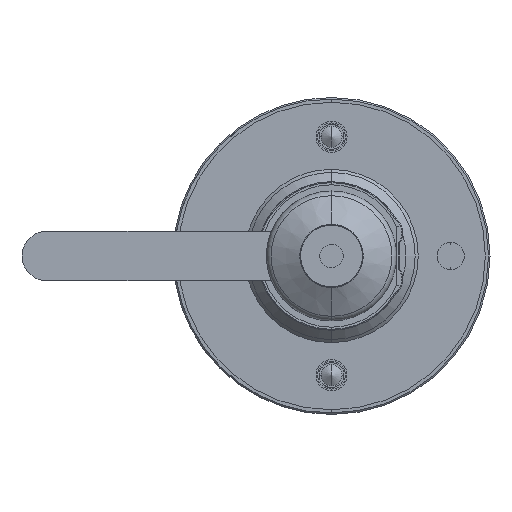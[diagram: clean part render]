
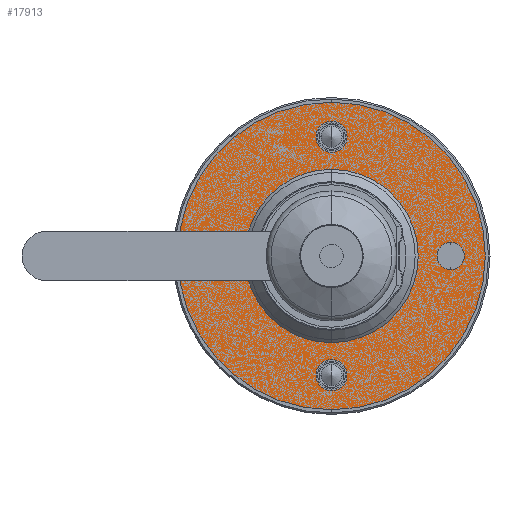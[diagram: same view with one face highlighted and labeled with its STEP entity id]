
A CAD part, front view. The second image highlights one B-rep face of the part: STEP entity #17913.
In plain terms, the highlighted planar face has unit normal (0, -1, 0) as drawn and (0, 0, -1) by its records, which use the part's own axes.
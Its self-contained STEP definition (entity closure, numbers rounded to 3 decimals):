
#97 = VERTEX_POINT ( 'NONE', #20005 ) ;
#420 = CARTESIAN_POINT ( 'NONE',  ( 0., -38.5, 0. ) ) ;
#700 = VERTEX_POINT ( 'NONE', #23377 ) ;
#1423 = FACE_OUTER_BOUND ( 'NONE', #10048, .T. ) ;
#1801 = DIRECTION ( 'NONE',  ( 0., 0., 1. ) ) ;
#2234 = AXIS2_PLACEMENT_3D ( 'NONE', #23058, #12537, #27835 ) ;
#2856 = CIRCLE ( 'NONE', #7424, 5. ) ;
#2959 = DIRECTION ( 'NONE',  ( -1., 0., 0. ) ) ;
#3120 = EDGE_LOOP ( 'NONE', ( #12084, #16001 ) ) ;
#3706 = DIRECTION ( 'NONE',  ( 0., 0., 1. ) ) ;
#4005 = FACE_BOUND ( 'NONE', #8280, .T. ) ;
#4648 = CARTESIAN_POINT ( 'NONE',  ( -22., 0., 0. ) ) ;
#4825 = DIRECTION ( 'NONE',  ( -1., 0., 0. ) ) ;
#4977 = ORIENTED_EDGE ( 'NONE', *, *, #26043, .T. ) ;
#5452 = CARTESIAN_POINT ( 'NONE',  ( 4.4, 38.5, 0. ) ) ;
#5481 = DIRECTION ( 'NONE',  ( 1., 0., 0. ) ) ;
#5783 = AXIS2_PLACEMENT_3D ( 'NONE', #16395, #16534, #11917 ) ;
#5867 = DIRECTION ( 'NONE',  ( -1., 0., 0. ) ) ;
#6807 = CARTESIAN_POINT ( 'NONE',  ( 0., 38.5, 0. ) ) ;
#7220 = VERTEX_POINT ( 'NONE', #11809 ) ;
#7252 = AXIS2_PLACEMENT_3D ( 'NONE', #17927, #24718, #26892 ) ;
#7316 = DIRECTION ( 'NONE',  ( -1., 0., 0. ) ) ;
#7424 = AXIS2_PLACEMENT_3D ( 'NONE', #17420, #21754, #21891 ) ;
#7699 = AXIS2_PLACEMENT_3D ( 'NONE', #20251, #15791, #4825 ) ;
#7714 = CIRCLE ( 'NONE', #8178, 4.4 ) ;
#7903 = CARTESIAN_POINT ( 'NONE',  ( -4.4, 38.5, 0. ) ) ;
#7959 = EDGE_CURVE ( 'NONE', #16624, #700, #19591, .T. ) ;
#7975 = DIRECTION ( 'NONE',  ( 0., 0., 1. ) ) ;
#8038 = FACE_BOUND ( 'NONE', #12215, .T. ) ;
#8178 = AXIS2_PLACEMENT_3D ( 'NONE', #6807, #1801, #21533 ) ;
#8280 = EDGE_LOOP ( 'NONE', ( #28122, #9424 ) ) ;
#8398 = VERTEX_POINT ( 'NONE', #8442 ) ;
#8442 = CARTESIAN_POINT ( 'NONE',  ( -49.675, 0., 0. ) ) ;
#8653 = VERTEX_POINT ( 'NONE', #18499 ) ;
#8832 = DIRECTION ( 'NONE',  ( -1., 0., 0. ) ) ;
#9024 = AXIS2_PLACEMENT_3D ( 'NONE', #27367, #3706, #12200 ) ;
#9063 = DIRECTION ( 'NONE',  ( 0., 0., 1. ) ) ;
#9424 = ORIENTED_EDGE ( 'NONE', *, *, #23356, .T. ) ;
#9855 = CARTESIAN_POINT ( 'NONE',  ( 38.5, 0., 0. ) ) ;
#9934 = AXIS2_PLACEMENT_3D ( 'NONE', #20675, #13755, #2959 ) ;
#9954 = EDGE_CURVE ( 'NONE', #7220, #21771, #2856, .T. ) ;
#10048 = EDGE_LOOP ( 'NONE', ( #21723, #4977 ) ) ;
#10216 = FACE_BOUND ( 'NONE', #16101, .T. ) ;
#10472 = ORIENTED_EDGE ( 'NONE', *, *, #27449, .T. ) ;
#10698 = AXIS2_PLACEMENT_3D ( 'NONE', #25535, #20628, #5481 ) ;
#11723 = AXIS2_PLACEMENT_3D ( 'NONE', #21307, #25653, #5867 ) ;
#11809 = CARTESIAN_POINT ( 'NONE',  ( 43.5, 0., 0. ) ) ;
#11917 = DIRECTION ( 'NONE',  ( -1., 0., 0. ) ) ;
#12084 = ORIENTED_EDGE ( 'NONE', *, *, #26165, .T. ) ;
#12168 = CIRCLE ( 'NONE', #9934, 4.4 ) ;
#12200 = DIRECTION ( 'NONE',  ( -1., 0., 0. ) ) ;
#12213 = CIRCLE ( 'NONE', #16358, 4.4 ) ;
#12215 = EDGE_LOOP ( 'NONE', ( #12960, #18603 ) ) ;
#12537 = DIRECTION ( 'NONE',  ( 0., 0., 1. ) ) ;
#12660 = PLANE ( 'NONE',  #11723 ) ;
#12790 = ORIENTED_EDGE ( 'NONE', *, *, #19832, .T. ) ;
#12870 = VERTEX_POINT ( 'NONE', #5452 ) ;
#12960 = ORIENTED_EDGE ( 'NONE', *, *, #25234, .T. ) ;
#13755 = DIRECTION ( 'NONE',  ( 0., 0., 1. ) ) ;
#14149 = CIRCLE ( 'NONE', #7252, 22. ) ;
#14465 = DIRECTION ( 'NONE',  ( -1., 0., 0. ) ) ;
#15393 = CARTESIAN_POINT ( 'NONE',  ( 49.675, 0., 0. ) ) ;
#15502 = EDGE_CURVE ( 'NONE', #18372, #19985, #17521, .T. ) ;
#15791 = DIRECTION ( 'NONE',  ( 0., 0., -1. ) ) ;
#16001 = ORIENTED_EDGE ( 'NONE', *, *, #9954, .T. ) ;
#16017 = AXIS2_PLACEMENT_3D ( 'NONE', #9855, #7975, #14465 ) ;
#16101 = EDGE_LOOP ( 'NONE', ( #23063, #12790 ) ) ;
#16358 = AXIS2_PLACEMENT_3D ( 'NONE', #420, #9063, #7316 ) ;
#16395 = CARTESIAN_POINT ( 'NONE',  ( 0., 0., 0. ) ) ;
#16534 = DIRECTION ( 'NONE',  ( 0., 0., -1. ) ) ;
#16624 = VERTEX_POINT ( 'NONE', #27811 ) ;
#17292 = AXIS2_PLACEMENT_3D ( 'NONE', #18180, #20360, #8832 ) ;
#17420 = CARTESIAN_POINT ( 'NONE',  ( 38.5, 0., 0. ) ) ;
#17521 = CIRCLE ( 'NONE', #10698, 22. ) ;
#17766 = CIRCLE ( 'NONE', #9024, 4.4 ) ;
#17913 = ADVANCED_FACE ( 'NONE', ( #1423, #10216, #4005, #18988, #27821, #8038 ), #12660, .T. ) ;
#17927 = CARTESIAN_POINT ( 'NONE',  ( 0., 0., 0. ) ) ;
#18180 = CARTESIAN_POINT ( 'NONE',  ( -38.5, 0., 0. ) ) ;
#18372 = VERTEX_POINT ( 'NONE', #4648 ) ;
#18499 = CARTESIAN_POINT ( 'NONE',  ( -4.4, -38.5, 0. ) ) ;
#18591 = CARTESIAN_POINT ( 'NONE',  ( 22., 0., 0. ) ) ;
#18603 = ORIENTED_EDGE ( 'NONE', *, *, #15502, .T. ) ;
#18988 = FACE_BOUND ( 'NONE', #3120, .T. ) ;
#19591 = CIRCLE ( 'NONE', #17292, 5. ) ;
#19832 = EDGE_CURVE ( 'NONE', #97, #8653, #12168, .T. ) ;
#19985 = VERTEX_POINT ( 'NONE', #18591 ) ;
#20005 = CARTESIAN_POINT ( 'NONE',  ( 4.4, -38.5, 0. ) ) ;
#20138 = CIRCLE ( 'NONE', #7699, 49.675 ) ;
#20251 = CARTESIAN_POINT ( 'NONE',  ( 0., 0., 0. ) ) ;
#20360 = DIRECTION ( 'NONE',  ( 0., 0., 1. ) ) ;
#20628 = DIRECTION ( 'NONE',  ( 0., 0., 1. ) ) ;
#20675 = CARTESIAN_POINT ( 'NONE',  ( 0., -38.5, 0. ) ) ;
#21307 = CARTESIAN_POINT ( 'NONE',  ( 22., 0., 0. ) ) ;
#21533 = DIRECTION ( 'NONE',  ( -1., 0., 0. ) ) ;
#21553 = EDGE_CURVE ( 'NONE', #8653, #97, #12213, .T. ) ;
#21723 = ORIENTED_EDGE ( 'NONE', *, *, #23150, .T. ) ;
#21754 = DIRECTION ( 'NONE',  ( 0., 0., 1. ) ) ;
#21771 = VERTEX_POINT ( 'NONE', #27058 ) ;
#21891 = DIRECTION ( 'NONE',  ( -1., 0., 0. ) ) ;
#22837 = CIRCLE ( 'NONE', #5783, 49.675 ) ;
#23027 = VERTEX_POINT ( 'NONE', #15393 ) ;
#23058 = CARTESIAN_POINT ( 'NONE',  ( -38.5, 0., 0. ) ) ;
#23063 = ORIENTED_EDGE ( 'NONE', *, *, #21553, .T. ) ;
#23150 = EDGE_CURVE ( 'NONE', #23027, #8398, #22837, .T. ) ;
#23356 = EDGE_CURVE ( 'NONE', #12870, #28370, #17766, .T. ) ;
#23377 = CARTESIAN_POINT ( 'NONE',  ( -33.5, 0., 0. ) ) ;
#23406 = CIRCLE ( 'NONE', #2234, 5. ) ;
#24718 = DIRECTION ( 'NONE',  ( 0., 0., 1. ) ) ;
#24757 = CIRCLE ( 'NONE', #16017, 5. ) ;
#25234 = EDGE_CURVE ( 'NONE', #19985, #18372, #14149, .T. ) ;
#25535 = CARTESIAN_POINT ( 'NONE',  ( 0., 0., 0. ) ) ;
#25653 = DIRECTION ( 'NONE',  ( 0., 0., -1. ) ) ;
#26043 = EDGE_CURVE ( 'NONE', #8398, #23027, #20138, .T. ) ;
#26165 = EDGE_CURVE ( 'NONE', #21771, #7220, #24757, .T. ) ;
#26631 = ORIENTED_EDGE ( 'NONE', *, *, #7959, .T. ) ;
#26704 = EDGE_LOOP ( 'NONE', ( #26631, #10472 ) ) ;
#26854 = EDGE_CURVE ( 'NONE', #28370, #12870, #7714, .T. ) ;
#26892 = DIRECTION ( 'NONE',  ( 1., 0., 0. ) ) ;
#27058 = CARTESIAN_POINT ( 'NONE',  ( 33.5, 0., 0. ) ) ;
#27367 = CARTESIAN_POINT ( 'NONE',  ( 0., 38.5, 0. ) ) ;
#27449 = EDGE_CURVE ( 'NONE', #700, #16624, #23406, .T. ) ;
#27811 = CARTESIAN_POINT ( 'NONE',  ( -43.5, 0., 0. ) ) ;
#27821 = FACE_BOUND ( 'NONE', #26704, .T. ) ;
#27835 = DIRECTION ( 'NONE',  ( -1., 0., 0. ) ) ;
#28122 = ORIENTED_EDGE ( 'NONE', *, *, #26854, .T. ) ;
#28370 = VERTEX_POINT ( 'NONE', #7903 ) ;
